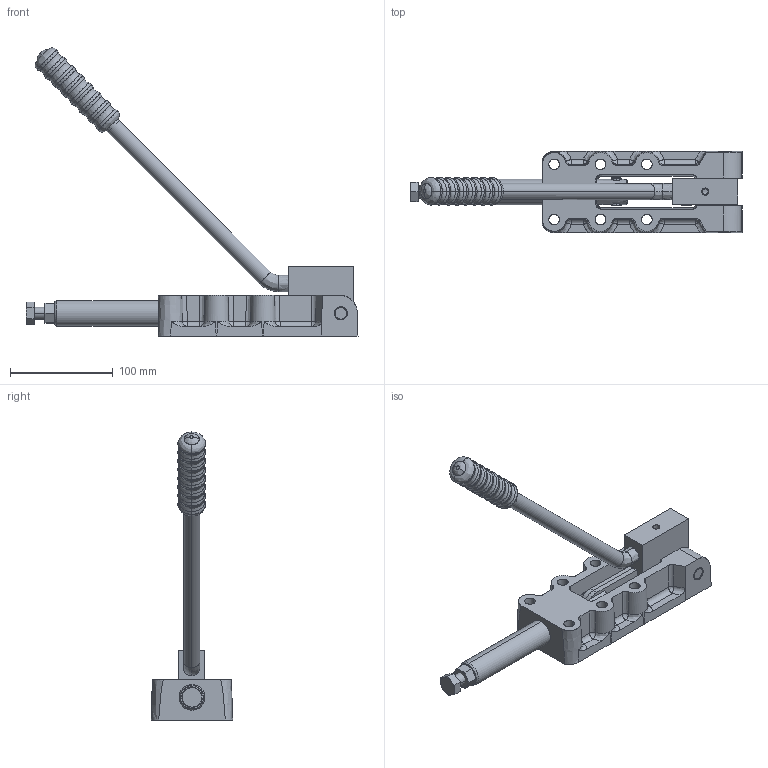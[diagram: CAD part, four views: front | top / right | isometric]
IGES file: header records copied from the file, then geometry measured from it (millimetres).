
Start section: SolidWorks IGES file using analytic representation for surfaces
Global section: file name: X:\Solidworks\Download\P2500L\IGES\P2500L.IGS; native system: SolidWorks 2016; preprocessor: SolidWorks 2016; author: AndyW; date: 170512.123652; units: millimetre
Bounding box: 323.59 x 79.25 x 280.74 mm (x, y, z)
Surface area: 162183.8 mm2 (no closed solid volume)
Topology: 0 solids, 0 shells, 337 faces, 5680 edges, 5672 vertices
Faces by surface type: bspline 189, revolution 148
